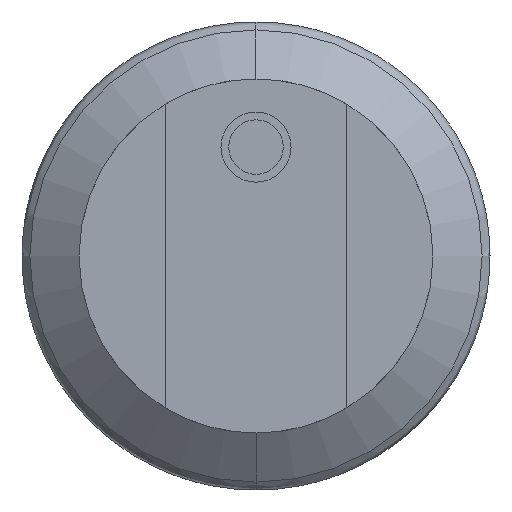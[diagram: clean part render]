
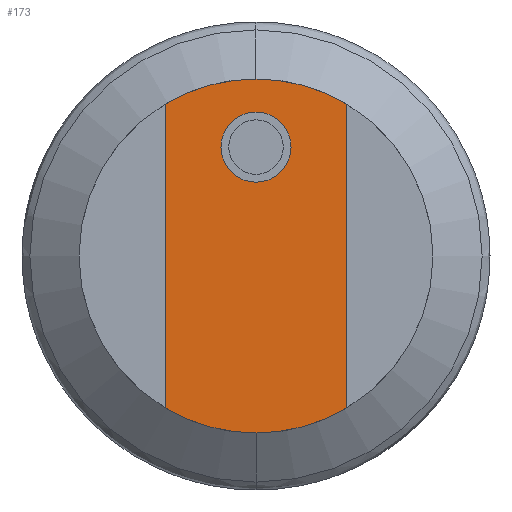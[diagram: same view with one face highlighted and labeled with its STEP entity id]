
A CAD part, left-side view. The second image highlights one B-rep face of the part: STEP entity #173.
In plain terms, the highlighted planar face has unit normal (-1, 0, 0).
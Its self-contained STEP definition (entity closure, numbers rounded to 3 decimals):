
#173=ADVANCED_FACE('',(#380,#381),#382,.T.);
#380=FACE_OUTER_BOUND('',#1655,.T.);
#381=FACE_BOUND('',#1656,.T.);
#382=PLANE('',#1657);
#1655=EDGE_LOOP('',(#2374,#2375,#2376,#2377,#2378,#2379));
#1656=EDGE_LOOP('',(#2380,#2381));
#1657=AXIS2_PLACEMENT_3D('',#2382,#2383,#2384);
#2374=ORIENTED_EDGE('',*,*,#2636,.T.);
#2375=ORIENTED_EDGE('',*,*,#2632,.T.);
#2376=ORIENTED_EDGE('',*,*,#2434,.T.);
#2377=ORIENTED_EDGE('',*,*,#2625,.T.);
#2378=ORIENTED_EDGE('',*,*,#2438,.T.);
#2379=ORIENTED_EDGE('',*,*,#2635,.T.);
#2380=ORIENTED_EDGE('',*,*,#2624,.T.);
#2381=ORIENTED_EDGE('',*,*,#2450,.T.);
#2382=CARTESIAN_POINT('',(0.0,4.875,0.0));
#2383=DIRECTION('',(-1.0,0.0,0.0));
#2384=DIRECTION('',(0.0,0.0,1.0));
#2434=EDGE_CURVE('',#2703,#2704,#2705,.T.);
#2438=EDGE_CURVE('',#2712,#2710,#2713,.T.);
#2450=EDGE_CURVE('',#2735,#2736,#2737,.T.);
#2624=EDGE_CURVE('',#2736,#2735,#3009,.T.);
#2625=EDGE_CURVE('',#2704,#2712,#3010,.T.);
#2632=EDGE_CURVE('',#3019,#2703,#3020,.T.);
#2635=EDGE_CURVE('',#2710,#3022,#3024,.T.);
#2636=EDGE_CURVE('',#3022,#3019,#3025,.T.);
#2703=VERTEX_POINT('',#3092);
#2704=VERTEX_POINT('',#3093);
#2705=CIRCLE('',#3094,9.75);
#2710=VERTEX_POINT('',#3100);
#2712=VERTEX_POINT('',#3103);
#2713=CIRCLE('',#3104,9.75);
#2735=VERTEX_POINT('',#3132);
#2736=VERTEX_POINT('',#3133);
#2737=CIRCLE('',#3134,1.932);
#3009=CIRCLE('',#3827,1.932);
#3010=LINE('',#3828,#3829);
#3019=VERTEX_POINT('',#3839);
#3020=CIRCLE('',#3840,9.75);
#3022=VERTEX_POINT('',#3843);
#3024=CIRCLE('',#3846,9.75);
#3025=LINE('',#3847,#3848);
#3092=CARTESIAN_POINT('',(0.0,0.,9.75));
#3093=CARTESIAN_POINT('',(0.0,5.0,8.37));
#3094=AXIS2_PLACEMENT_3D('',#3963,#3964,#3965);
#3100=CARTESIAN_POINT('',(0.0,0.0,-9.75));
#3103=CARTESIAN_POINT('',(0.0,5.0,-8.37));
#3104=AXIS2_PLACEMENT_3D('',#3971,#3972,#3973);
#3132=CARTESIAN_POINT('',(0.,1.932,6.0));
#3133=CARTESIAN_POINT('',(0.,-1.932,6.0));
#3134=AXIS2_PLACEMENT_3D('',#3995,#3996,#3997);
#3827=AXIS2_PLACEMENT_3D('',#4315,#4316,#4317);
#3828=CARTESIAN_POINT('',(0.0,5.0,0.0));
#3829=VECTOR('',#4318,1000.0);
#3839=CARTESIAN_POINT('',(0.0,-5.0,8.37));
#3840=AXIS2_PLACEMENT_3D('',#4335,#4336,#4337);
#3843=CARTESIAN_POINT('',(0.0,-5.0,-8.37));
#3846=AXIS2_PLACEMENT_3D('',#4340,#4341,#4342);
#3847=CARTESIAN_POINT('',(0.0,-5.0,0.0));
#3848=VECTOR('',#4343,1000.0);
#3963=CARTESIAN_POINT('',(0.0,0.0,0.0));
#3964=DIRECTION('',(-1.0,0.0,0.0));
#3965=DIRECTION('',(0.0,0.0,-1.0));
#3971=CARTESIAN_POINT('',(0.0,0.0,0.0));
#3972=DIRECTION('',(-1.0,0.0,0.0));
#3973=DIRECTION('',(0.0,0.,-1.0));
#3995=CARTESIAN_POINT('',(0.0,0.,6.0));
#3996=DIRECTION('',(1.0,0.,0.));
#3997=DIRECTION('',(0.,-1.0,0.0));
#4315=CARTESIAN_POINT('',(0.0,0.,6.0));
#4316=DIRECTION('',(1.0,0.,0.));
#4317=DIRECTION('',(0.,-1.0,0.0));
#4318=DIRECTION('',(0.0,0.0,-1.0));
#4335=CARTESIAN_POINT('',(0.0,0.0,0.0));
#4336=DIRECTION('',(-1.0,0.0,0.0));
#4337=DIRECTION('',(0.0,0.0,-1.0));
#4340=CARTESIAN_POINT('',(0.0,0.0,0.0));
#4341=DIRECTION('',(-1.0,0.0,0.0));
#4342=DIRECTION('',(0.0,0.0,-1.0));
#4343=DIRECTION('',(0.0,0.0,1.0));
